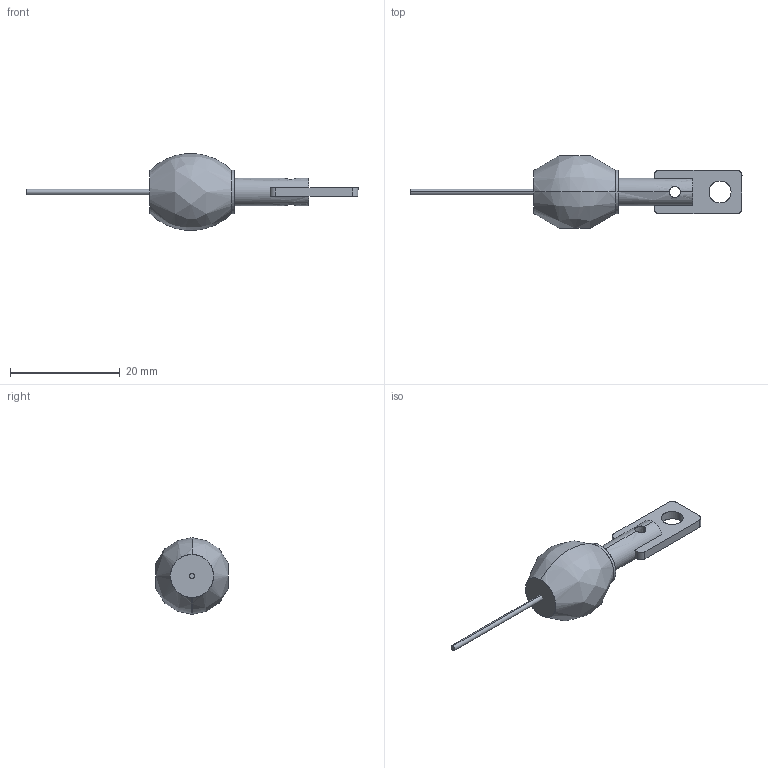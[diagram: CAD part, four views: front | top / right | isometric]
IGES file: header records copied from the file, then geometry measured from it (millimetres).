
Start section: SolidWorks IGES file using analytic representation for surfaces
Bounding box: 60.43 x 13.24 x 13.92 mm (x, y, z)
Surface area: 1377.7 mm2 (no closed solid volume)
Topology: 0 solids, 0 shells, 31 faces, 580 edges, 580 vertices
Faces by surface type: bspline 17, revolution 14
